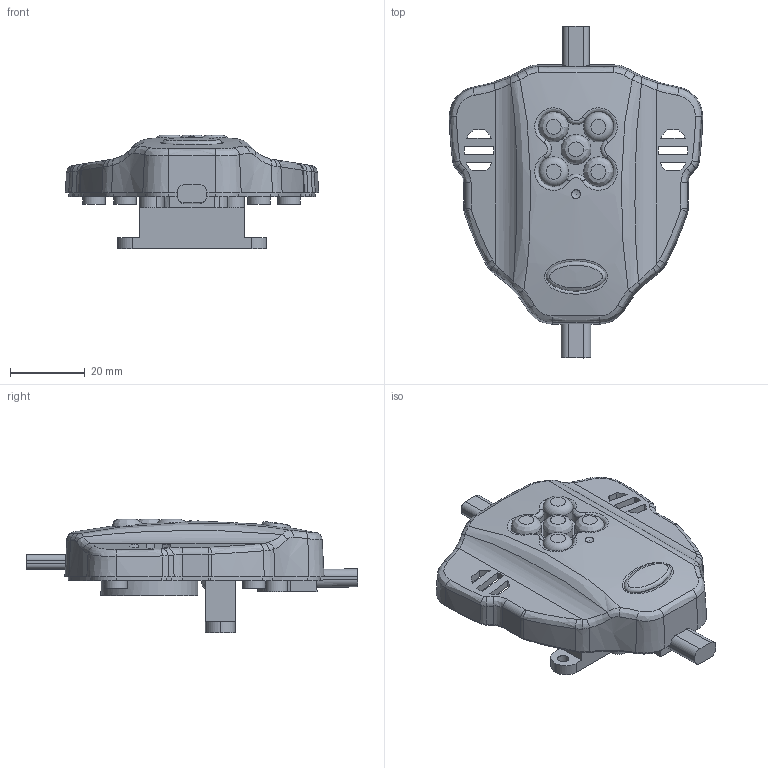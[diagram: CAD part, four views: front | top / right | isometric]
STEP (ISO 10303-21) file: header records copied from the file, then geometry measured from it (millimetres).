
FILE_DESCRIPTION(/* description */ (''),/* implementation_level */ '2;1');
FILE_NAME(/* name */ '样题10.stp',/* time_stamp */ '2022-03-14T16:12:35+08:00',/* author */ (''),/* organization */ (''),/* preprocessor_version */ 'ST-DEVELOPER v16',/* originating_system */ 'SIEMENS PLM Software NX 10.0',/* authorisation */ '');
FILE_SCHEMA (('AUTOMOTIVE_DESIGN { 1 0 10303 214 3 1 1 1 }'));
Length unit declared in the file: millimetre
Products named in the file (6): 前盖3; 红外射线头3; 风扇3; 摄像头3; USB插头3; 样题10
Assembly tree (5 placements, depth 2):
  样题10
    USB插头3
    摄像头3
    风扇3
    红外射线头3
    前盖3
Bounding box: 67.9 x 89 x 30.5 mm (x, y, z)
Volume: 19076.5 mm3; surface area: 21925 mm2
Topology: 4 solids, 5 shells, 445 faces, 1161 edges, 743 vertices
Faces by surface type: plane 158, cylinder 115, bspline 99, cone 52, extrusion 18, torus 2, sphere 1
Full cylindrical faces by diameter (mm): 2.8 x2, 3 x6, 3.3 x2, 5 x1, 6 x8, 8 x5, 26 x2
Entity records: 16638 total; most frequent: CARTESIAN_POINT 6287, ORIENTED_EDGE 2178, DIRECTION 1978, EDGE_CURVE 1089, AXIS2_PLACEMENT_3D 755, VERTEX_POINT 721, EDGE_LOOP 536, VECTOR 468
